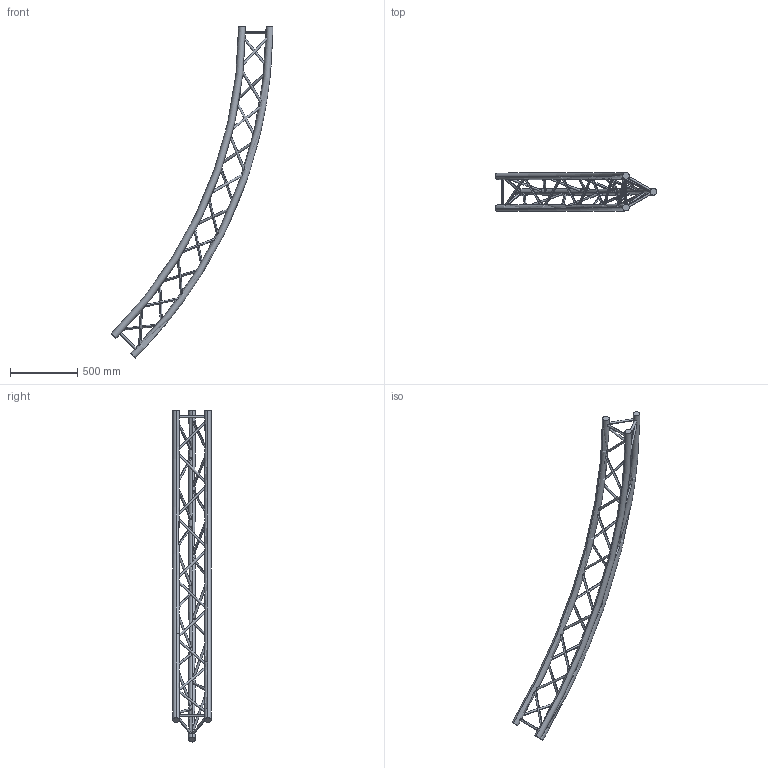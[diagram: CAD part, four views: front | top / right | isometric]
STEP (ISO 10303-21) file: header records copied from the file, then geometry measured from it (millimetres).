
FILE_DESCRIPTION (( 'STEP AP203' ), '1' );
FILE_NAME ('SXC29700PE.STEP', '2009-10-21T09:17:26', ( 'CEDIA' ), ( 'CEDIA INDUSTRIE' ), 'SwSTEP 2.0', 'SolidWorks 2009', '' );
FILE_SCHEMA (( 'CONFIG_CONTROL_DESIGN' ));
Length unit declared in the file: millimetre
Products named in the file (1): SXC29700PE
Bounding box: 1205.61 x 287 x 2474.87 mm (x, y, z)
Volume: 17295527 mm3; surface area: 1692114.5 mm2
Topology: 1 solids, 1 shells, 84 faces, 234 edges, 156 vertices
Faces by surface type: cylinder 72, torus 6, plane 6
Entity records: 9305 total; most frequent: CARTESIAN_POINT 7199, ORIENTED_EDGE 468, DIRECTION 278, EDGE_CURVE 234, EDGE_LOOP 156, VERTEX_POINT 156, B_SPLINE_CURVE_WITH_KNOTS 144, AXIS2_PLACEMENT_3D 103
